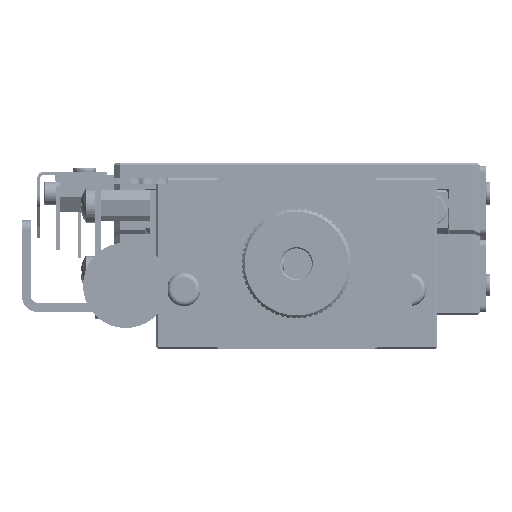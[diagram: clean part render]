
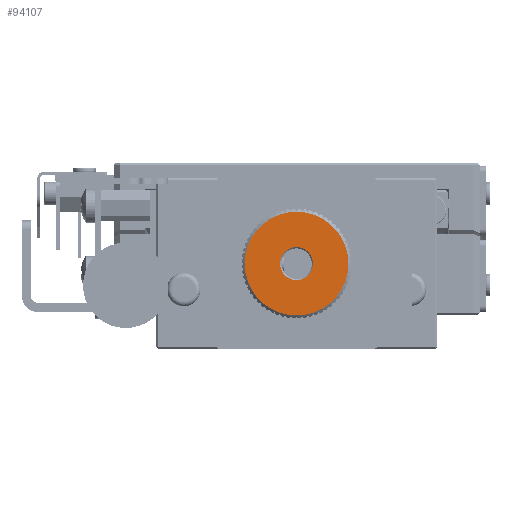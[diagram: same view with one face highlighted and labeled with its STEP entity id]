
A CAD part, left-side view. The second image highlights one B-rep face of the part: STEP entity #94107.
In plain terms, the highlighted planar face has unit normal (-1, 0, 0).
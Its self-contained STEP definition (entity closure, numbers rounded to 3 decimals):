
#1169 = DIRECTION ( 'NONE',  ( -1., 0., 0. ) ) ;
#5472 = DIRECTION ( 'NONE',  ( 1., 0., 0. ) ) ;
#10720 = CARTESIAN_POINT ( 'NONE',  ( -106., 0., -16.5 ) ) ;
#14642 = CIRCLE ( 'NONE', #102212, 2.7 ) ;
#15221 = AXIS2_PLACEMENT_3D ( 'NONE', #40225, #5472, #138558 ) ;
#16244 = DIRECTION ( 'NONE',  ( -1., 0., 0. ) ) ;
#26954 = ORIENTED_EDGE ( 'NONE', *, *, #35045, .T. ) ;
#30716 = EDGE_LOOP ( 'NONE', ( #94999, #111059 ) ) ;
#35045 = EDGE_CURVE ( 'NONE', #149122, #47065, #55243, .T. ) ;
#35827 = DIRECTION ( 'NONE',  ( 1., 0., 0. ) ) ;
#40225 = CARTESIAN_POINT ( 'NONE',  ( -106., 0., -16.5 ) ) ;
#40464 = DIRECTION ( 'NONE',  ( 0., 1., 0. ) ) ;
#42424 = AXIS2_PLACEMENT_3D ( 'NONE', #10720, #61480, #59881 ) ;
#47065 = VERTEX_POINT ( 'NONE', #140303 ) ;
#55087 = EDGE_CURVE ( 'NONE', #140179, #146365, #14642, .T. ) ;
#55243 = CIRCLE ( 'NONE', #101528, 8.5 ) ;
#59423 = CARTESIAN_POINT ( 'NONE',  ( -106., 0., -8. ) ) ;
#59881 = DIRECTION ( 'NONE',  ( 0., 0., 1. ) ) ;
#61480 = DIRECTION ( 'NONE',  ( -1., 0., 0. ) ) ;
#62404 = CARTESIAN_POINT ( 'NONE',  ( -106., 0., -16.5 ) ) ;
#65639 = CARTESIAN_POINT ( 'NONE',  ( -106., 0., -19.2 ) ) ;
#65905 = AXIS2_PLACEMENT_3D ( 'NONE', #141155, #16244, #40464 ) ;
#67513 = EDGE_CURVE ( 'NONE', #47065, #149122, #106754, .T. ) ;
#68586 = PLANE ( 'NONE',  #65905 ) ;
#87423 = DIRECTION ( 'NONE',  ( 0., 0., 1. ) ) ;
#94107 = ADVANCED_FACE ( 'NONE', ( #101716, #126690 ), #68586, .T. ) ;
#94741 = DIRECTION ( 'NONE',  ( 0., 0., 1. ) ) ;
#94999 = ORIENTED_EDGE ( 'NONE', *, *, #105570, .T. ) ;
#100153 = CIRCLE ( 'NONE', #15221, 2.7 ) ;
#101528 = AXIS2_PLACEMENT_3D ( 'NONE', #62404, #1169, #87423 ) ;
#101716 = FACE_OUTER_BOUND ( 'NONE', #139575, .T. ) ;
#102212 = AXIS2_PLACEMENT_3D ( 'NONE', #132589, #35827, #94741 ) ;
#105570 = EDGE_CURVE ( 'NONE', #146365, #140179, #100153, .T. ) ;
#106754 = CIRCLE ( 'NONE', #42424, 8.5 ) ;
#111059 = ORIENTED_EDGE ( 'NONE', *, *, #55087, .T. ) ;
#126690 = FACE_BOUND ( 'NONE', #30716, .T. ) ;
#132589 = CARTESIAN_POINT ( 'NONE',  ( -106., 0., -16.5 ) ) ;
#138558 = DIRECTION ( 'NONE',  ( 0., 0., 1. ) ) ;
#139575 = EDGE_LOOP ( 'NONE', ( #154979, #26954 ) ) ;
#140179 = VERTEX_POINT ( 'NONE', #65639 ) ;
#140303 = CARTESIAN_POINT ( 'NONE',  ( -106., 0., -25. ) ) ;
#141155 = CARTESIAN_POINT ( 'NONE',  ( -106., 0., -16.5 ) ) ;
#141257 = CARTESIAN_POINT ( 'NONE',  ( -106., 0., -13.8 ) ) ;
#146365 = VERTEX_POINT ( 'NONE', #141257 ) ;
#149122 = VERTEX_POINT ( 'NONE', #59423 ) ;
#154979 = ORIENTED_EDGE ( 'NONE', *, *, #67513, .T. ) ;
